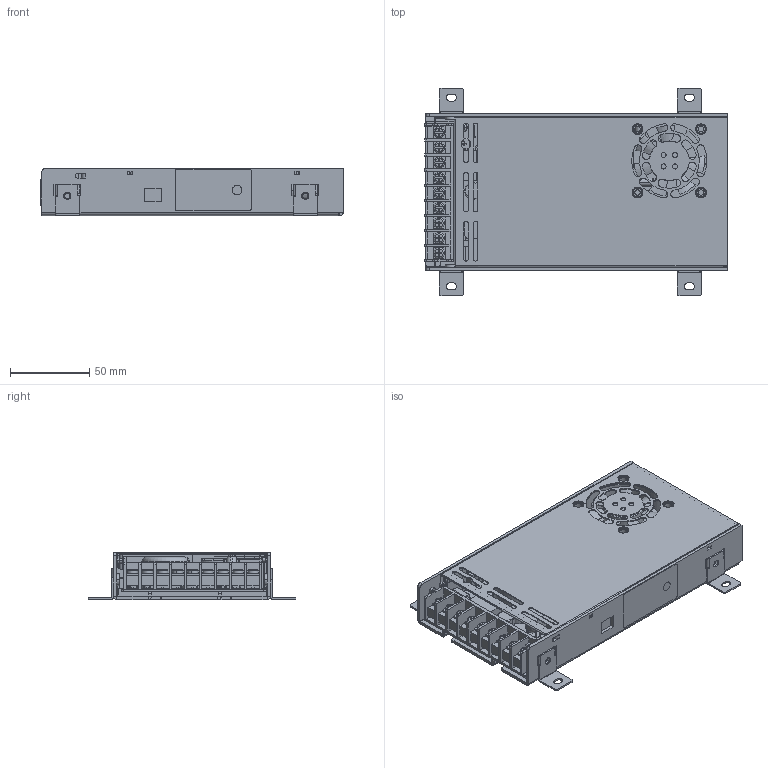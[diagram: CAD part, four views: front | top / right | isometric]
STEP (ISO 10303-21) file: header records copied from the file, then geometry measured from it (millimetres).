
FILE_DESCRIPTION((''),'2;1');
FILE_NAME('LPF-350-12','2022-08-19T13:59:38',('huangxiufeng'),(''),'CREO PARAMETRIC BY PTC INC, 2017260','CREO PARAMETRIC BY PTC INC, 2017260','');
FILE_SCHEMA(('AUTOMOTIVE_DESIGN { 1 0 10303 214 1 1 1 1 }'));
Products named in the file (1): LPF-350-12
Bounding box: 190.81 x 131 x 29.8 mm (x, y, z)
Surface area: 258852.2 mm2 (no closed solid volume)
Topology: 0 solids, 527 shells, 4319 faces, 13026 edges, 9155 vertices
Faces by surface type: plane 3022, cylinder 1015, torus 139, bspline 75, cone 35, sphere 33
Entity records: 161329 total; most frequent: CARTESIAN_POINT 45911, DIRECTION 23849, ORIENTED_EDGE 21178, EDGE_CURVE 12993, VECTOR 9711, LINE 9711, VERTEX_POINT 9155, AXIS2_PLACEMENT_3D 7069
